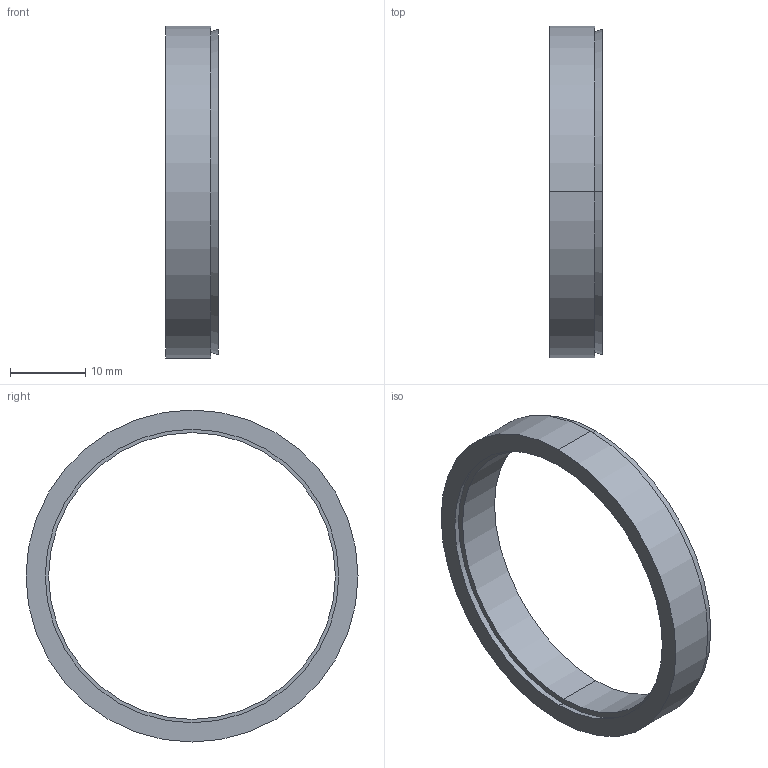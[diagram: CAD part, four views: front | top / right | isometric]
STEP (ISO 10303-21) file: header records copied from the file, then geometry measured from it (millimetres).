
FILE_DESCRIPTION (( 'STEP AP203' ), '1' );
FILE_NAME ('R-38-44.STEP', '2017-11-06T02:33:51', ( 'MYCOM' ), ( '' ), 'SwSTEP 2.0', 'SolidWorks 2015', '' );
FILE_SCHEMA (( 'CONFIG_CONTROL_DESIGN' ));
Length unit declared in the file: millimetre
Products named in the file (1): R-38-44
Bounding box: 7 x 44 x 44 mm (x, y, z)
Surface area: 4009.5 mm2 (no closed solid volume)
Topology: 0 solids, 2 shells, 12 faces, 24 edges, 16 vertices
Faces by surface type: cone 4, cylinder 4, plane 4
Entity records: 406 total; most frequent: DIRECTION 66, CARTESIAN_POINT 53, ORIENTED_EDGE 48, AXIS2_PLACEMENT_3D 29, EDGE_CURVE 24, VERTEX_POINT 16, EDGE_LOOP 16, CIRCLE 16
